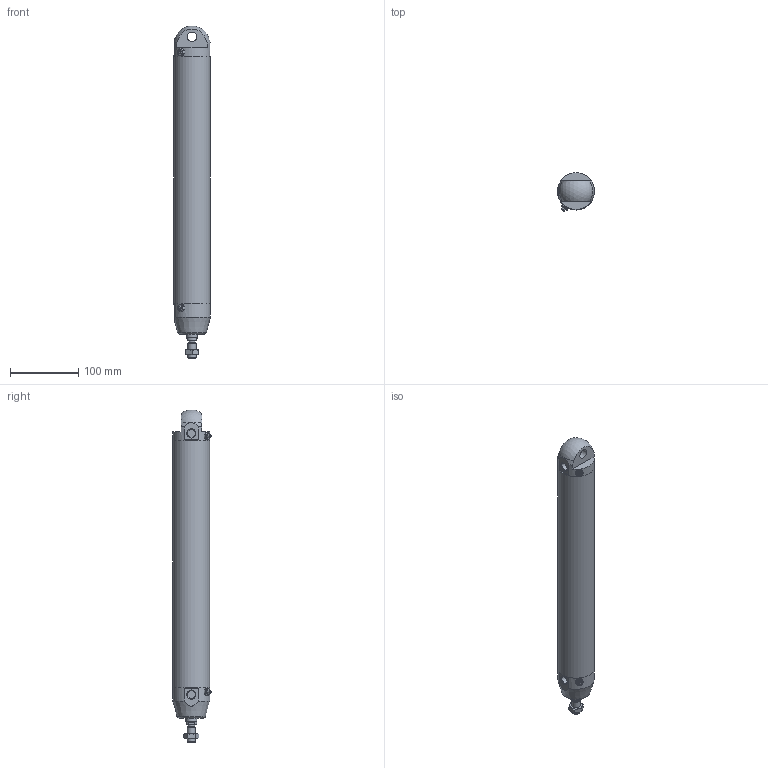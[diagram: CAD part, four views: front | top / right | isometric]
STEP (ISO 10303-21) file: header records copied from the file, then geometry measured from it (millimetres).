
FILE_DESCRIPTION(/* description */ (''),/* implementation_level */ '2;1');
FILE_NAME(/* name */ 'I:\Area Tecnica\Documenti\A-Manieri\_Inventor\12X\12X#A_###_####_#_#\12XBA_050_0320_#_#.stp',/* time_stamp */ '2015-04-24T09:19:09+02:00',/* author */ ('maniean1'),/* organization */ ('Pneumax S.p.A.'),/* preprocessor_version */ 'ST-DEVELOPER v15.2',/* originating_system */ 'Autodesk Inventor 2014',/* authorisation */ '');
FILE_SCHEMA (('AUTOMOTIVE_DESIGN { 1 0 10303 214 3 1 1 }'));
Length unit declared in the file: millimetre
Products named in the file (6): C1250_619-0320; 12X50_614; 12X50_607; S12X50_0320; 12X_50_11; 12XBA_050_0320_#_#
Bounding box: 54 x 55.88 x 486.83 mm (x, y, z)
Volume: 423750.3 mm3; surface area: 174635.8 mm2
Topology: 5 solids, 5 shells, 77 faces, 168 edges, 109 vertices
Faces by surface type: plane 43, cylinder 18, cone 12, torus 3, sphere 1
Full cylindrical faces by diameter (mm): 5 x2, 10.2 x1, 11 x2, 11.4 x2, 12 x2, 14 x2, 15.6 x1, 16 x1, 50 x2, 54 x3
Entity records: 2072 total; most frequent: CARTESIAN_POINT 428, DIRECTION 346, ORIENTED_EDGE 260, AXIS2_PLACEMENT_3D 152, EDGE_CURVE 130, EDGE_LOOP 122, VERTEX_POINT 100, ADVANCED_FACE 77
